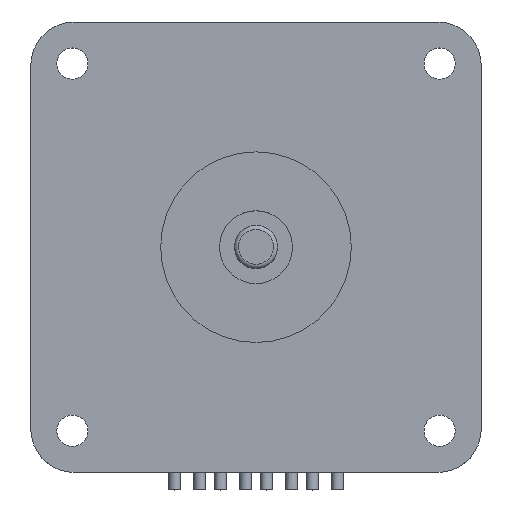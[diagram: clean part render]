
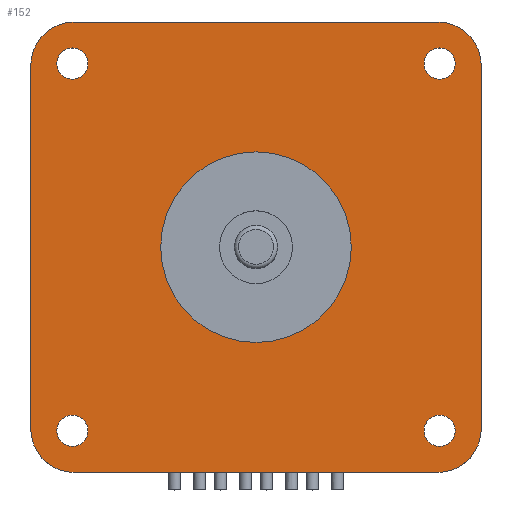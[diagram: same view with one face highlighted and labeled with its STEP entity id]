
A CAD part, top view. The second image highlights one B-rep face of the part: STEP entity #152.
In plain terms, the highlighted planar face has unit normal (0, 0, 1).
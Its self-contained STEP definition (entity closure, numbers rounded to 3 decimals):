
#73=PLANE('',#763);
#110=LINE('',#1523,#126);
#115=LINE('',#1538,#131);
#119=LINE('',#1550,#135);
#123=LINE('',#1562,#139);
#126=VECTOR('',#839,1.);
#131=VECTOR('',#852,1.);
#135=VECTOR('',#864,1.);
#139=VECTOR('',#876,1.);
#152=ADVANCED_FACE('',(#282,#283,#284,#285,#286,#287),#73,.F.);
#222=CIRCLE('',#737,5.);
#224=CIRCLE('',#741,5.);
#226=CIRCLE('',#745,5.);
#228=CIRCLE('',#749,5.);
#235=CIRCLE('',#758,1.8);
#236=CIRCLE('',#759,1.8);
#237=CIRCLE('',#760,1.8);
#238=CIRCLE('',#761,1.8);
#239=CIRCLE('',#762,11.);
#282=FACE_BOUND('',#374,.T.);
#283=FACE_BOUND('',#375,.T.);
#284=FACE_BOUND('',#376,.T.);
#285=FACE_BOUND('',#377,.T.);
#286=FACE_BOUND('',#378,.T.);
#287=FACE_BOUND('',#379,.T.);
#374=EDGE_LOOP('',(#507));
#375=EDGE_LOOP('',(#508));
#376=EDGE_LOOP('',(#509));
#377=EDGE_LOOP('',(#510));
#378=EDGE_LOOP('',(#511));
#379=EDGE_LOOP('',(#512,#513,#514,#515,#516,#517,#518,#519));
#507=ORIENTED_EDGE('',*,*,#693,.T.);
#508=ORIENTED_EDGE('',*,*,#694,.T.);
#509=ORIENTED_EDGE('',*,*,#695,.T.);
#510=ORIENTED_EDGE('',*,*,#696,.T.);
#511=ORIENTED_EDGE('',*,*,#697,.F.);
#512=ORIENTED_EDGE('',*,*,#664,.F.);
#513=ORIENTED_EDGE('',*,*,#686,.F.);
#514=ORIENTED_EDGE('',*,*,#683,.F.);
#515=ORIENTED_EDGE('',*,*,#680,.F.);
#516=ORIENTED_EDGE('',*,*,#677,.F.);
#517=ORIENTED_EDGE('',*,*,#674,.F.);
#518=ORIENTED_EDGE('',*,*,#671,.F.);
#519=ORIENTED_EDGE('',*,*,#668,.F.);
#602=VERTEX_POINT('',#1524);
#603=VERTEX_POINT('',#1525);
#606=VERTEX_POINT('',#1533);
#608=VERTEX_POINT('',#1539);
#610=VERTEX_POINT('',#1545);
#612=VERTEX_POINT('',#1551);
#614=VERTEX_POINT('',#1557);
#616=VERTEX_POINT('',#1563);
#623=VERTEX_POINT('',#1583);
#624=VERTEX_POINT('',#1585);
#625=VERTEX_POINT('',#1587);
#626=VERTEX_POINT('',#1589);
#627=VERTEX_POINT('',#1591);
#664=EDGE_CURVE('',#602,#603,#110,.T.);
#668=EDGE_CURVE('',#603,#606,#222,.T.);
#671=EDGE_CURVE('',#606,#608,#115,.T.);
#674=EDGE_CURVE('',#608,#610,#224,.T.);
#677=EDGE_CURVE('',#610,#612,#119,.T.);
#680=EDGE_CURVE('',#612,#614,#226,.T.);
#683=EDGE_CURVE('',#614,#616,#123,.T.);
#686=EDGE_CURVE('',#616,#602,#228,.T.);
#693=EDGE_CURVE('',#623,#623,#235,.T.);
#694=EDGE_CURVE('',#624,#624,#236,.T.);
#695=EDGE_CURVE('',#625,#625,#237,.T.);
#696=EDGE_CURVE('',#626,#626,#238,.T.);
#697=EDGE_CURVE('',#627,#627,#239,.T.);
#737=AXIS2_PLACEMENT_3D('',#1532,#845,#846);
#741=AXIS2_PLACEMENT_3D('',#1544,#857,#858);
#745=AXIS2_PLACEMENT_3D('',#1556,#869,#870);
#749=AXIS2_PLACEMENT_3D('',#1568,#881,#882);
#758=AXIS2_PLACEMENT_3D('',#1582,#899,#900);
#759=AXIS2_PLACEMENT_3D('',#1584,#901,#902);
#760=AXIS2_PLACEMENT_3D('',#1586,#903,#904);
#761=AXIS2_PLACEMENT_3D('',#1588,#905,#906);
#762=AXIS2_PLACEMENT_3D('',#1590,#907,#908);
#763=AXIS2_PLACEMENT_3D('',#1592,#909,#910);
#839=DIRECTION('',(0.,1.,0.));
#845=DIRECTION('',(0.,0.,-1.));
#846=DIRECTION('',(1.,0.,0.));
#852=DIRECTION('',(1.,0.,0.));
#857=DIRECTION('',(0.,0.,-1.));
#858=DIRECTION('',(1.,0.,0.));
#864=DIRECTION('',(0.,-1.,0.));
#869=DIRECTION('',(0.,0.,-1.));
#870=DIRECTION('',(1.,0.,0.));
#876=DIRECTION('',(-1.,0.,0.));
#881=DIRECTION('',(0.,0.,-1.));
#882=DIRECTION('',(1.,0.,0.));
#899=DIRECTION('',(0.,0.,-1.));
#900=DIRECTION('',(-1.,0.,0.));
#901=DIRECTION('',(0.,0.,-1.));
#902=DIRECTION('',(-1.,0.,0.));
#903=DIRECTION('',(0.,0.,-1.));
#904=DIRECTION('',(-1.,0.,0.));
#905=DIRECTION('',(0.,0.,-1.));
#906=DIRECTION('',(-1.,0.,0.));
#907=DIRECTION('',(0.,0.,1.));
#908=DIRECTION('',(1.,0.,0.));
#909=DIRECTION('',(0.,0.,-1.));
#910=DIRECTION('',(-1.,0.,0.));
#1523=CARTESIAN_POINT('',(-26.,-21.,0.));
#1524=CARTESIAN_POINT('',(-26.,-21.,0.));
#1525=CARTESIAN_POINT('',(-26.,21.,0.));
#1532=CARTESIAN_POINT('',(-21.,21.,0.));
#1533=CARTESIAN_POINT('',(-21.,26.,0.));
#1538=CARTESIAN_POINT('',(-21.,26.,0.));
#1539=CARTESIAN_POINT('',(21.,26.,0.));
#1544=CARTESIAN_POINT('',(21.,21.,0.));
#1545=CARTESIAN_POINT('',(26.,21.,0.));
#1550=CARTESIAN_POINT('',(26.,21.,0.));
#1551=CARTESIAN_POINT('',(26.,-21.,0.));
#1556=CARTESIAN_POINT('',(21.,-21.,0.));
#1557=CARTESIAN_POINT('',(21.,-26.,0.));
#1562=CARTESIAN_POINT('',(21.,-26.,0.));
#1563=CARTESIAN_POINT('',(-21.,-26.,0.));
#1568=CARTESIAN_POINT('',(-21.,-21.,0.));
#1582=CARTESIAN_POINT('',(21.2,21.2,0.));
#1583=CARTESIAN_POINT('',(19.4,21.2,0.));
#1584=CARTESIAN_POINT('',(21.2,-21.2,0.));
#1585=CARTESIAN_POINT('',(19.4,-21.2,0.));
#1586=CARTESIAN_POINT('',(-21.2,-21.2,0.));
#1587=CARTESIAN_POINT('',(-23.,-21.2,0.));
#1588=CARTESIAN_POINT('',(-21.2,21.2,0.));
#1589=CARTESIAN_POINT('',(-23.,21.2,0.));
#1590=CARTESIAN_POINT('',(0.,0.,0.));
#1591=CARTESIAN_POINT('',(11.,0.,0.));
#1592=CARTESIAN_POINT('',(-21.,21.,0.));
